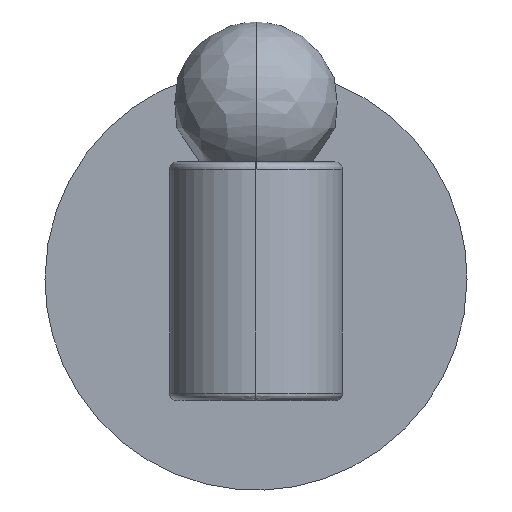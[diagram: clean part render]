
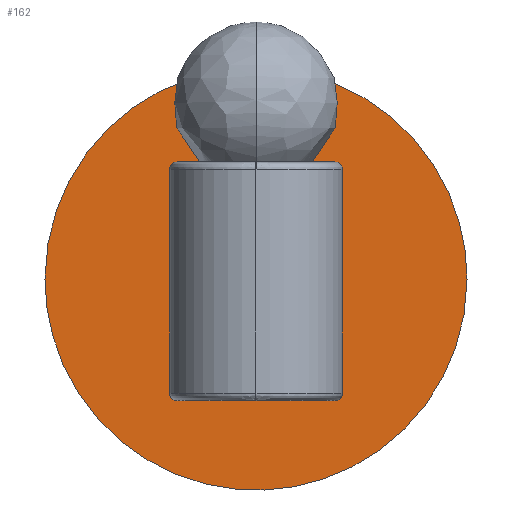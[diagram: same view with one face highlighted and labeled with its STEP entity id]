
A CAD part, front view. The second image highlights one B-rep face of the part: STEP entity #162.
In plain terms, the highlighted planar face has unit normal (0, -1, 0).
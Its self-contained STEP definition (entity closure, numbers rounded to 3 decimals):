
#162=ADVANCED_FACE('',(#292),#2076,.T.);
#292=FACE_OUTER_BOUND('',#422,.T.);
#422=EDGE_LOOP('',(#1060,#1061));
#1060=ORIENTED_EDGE('',*,*,#1401,.F.);
#1061=ORIENTED_EDGE('',*,*,#1397,.F.);
#1397=EDGE_CURVE('',#1944,#1946,#1733,.T.);
#1401=EDGE_CURVE('',#1946,#1944,#1737,.T.);
#1733=(
BOUNDED_CURVE()
B_SPLINE_CURVE(2,(#7172,#7173,#7174,#7175,#7176),.UNSPECIFIED.,.F.,.F.)
B_SPLINE_CURVE_WITH_KNOTS((3,2,3),(0.,90.321,180.642),
 .UNSPECIFIED.)
CURVE()
GEOMETRIC_REPRESENTATION_ITEM()
RATIONAL_B_SPLINE_CURVE((1.,0.707,1.,0.707,1.))
REPRESENTATION_ITEM('')
);
#1737=(
BOUNDED_CURVE()
B_SPLINE_CURVE(2,(#7186,#7187,#7188,#7189,#7190),.UNSPECIFIED.,.F.,.F.)
B_SPLINE_CURVE_WITH_KNOTS((3,2,3),(180.642,270.962,361.283),
 .UNSPECIFIED.)
CURVE()
GEOMETRIC_REPRESENTATION_ITEM()
RATIONAL_B_SPLINE_CURVE((1.,0.707,1.,0.707,1.))
REPRESENTATION_ITEM('')
);
#1944=VERTEX_POINT('',#7168);
#1946=VERTEX_POINT('',#7170);
#2076=PLANE('',#2106);
#2106=AXIS2_PLACEMENT_3D('',#7156,#2121,$);
#2121=DIRECTION('',(0.,-1.,0.));
#7156=CARTESIAN_POINT('',(-71.784,65.884,106.476));
#7168=CARTESIAN_POINT('',(57.591,65.884,34.601));
#7170=CARTESIAN_POINT('',(-57.409,65.884,34.601));
#7172=CARTESIAN_POINT('',(57.591,65.884,34.601));
#7173=CARTESIAN_POINT('',(57.591,65.884,-22.899));
#7174=CARTESIAN_POINT('',(0.091,65.884,-22.899));
#7175=CARTESIAN_POINT('',(-57.409,65.884,-22.899));
#7176=CARTESIAN_POINT('',(-57.409,65.884,34.601));
#7186=CARTESIAN_POINT('',(-57.409,65.884,34.601));
#7187=CARTESIAN_POINT('',(-57.409,65.884,92.101));
#7188=CARTESIAN_POINT('',(0.091,65.884,92.101));
#7189=CARTESIAN_POINT('',(57.591,65.884,92.101));
#7190=CARTESIAN_POINT('',(57.591,65.884,34.601));
